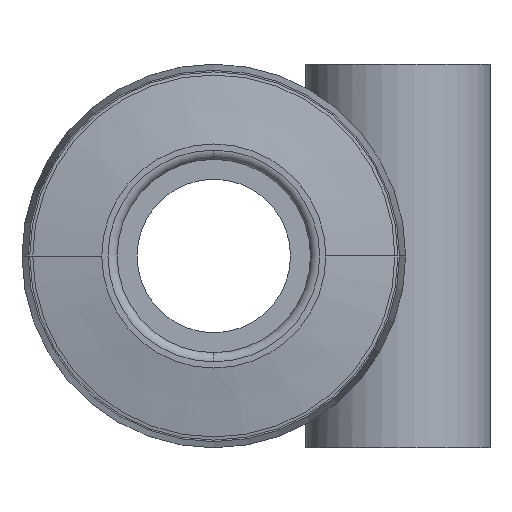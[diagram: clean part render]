
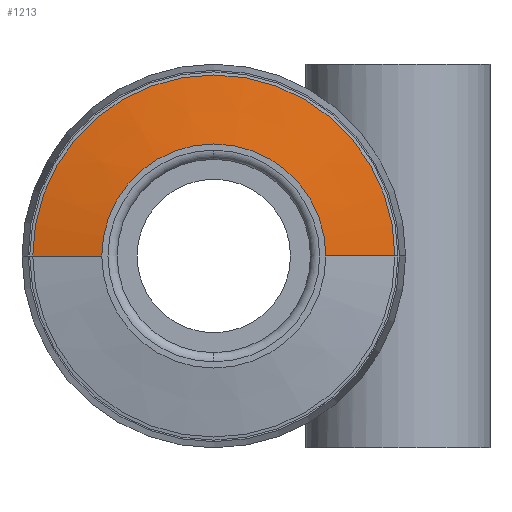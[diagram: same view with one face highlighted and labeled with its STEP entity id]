
A CAD part, front view. The second image highlights one B-rep face of the part: STEP entity #1213.
In plain terms, the highlighted conical face has half-angle 79.919 degrees and reference radius 4.775 mm.
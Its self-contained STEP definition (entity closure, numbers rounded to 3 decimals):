
#48 = ORIENTED_EDGE ( 'NONE', *, *, #321, .F. ) ;
#83 = ORIENTED_EDGE ( 'NONE', *, *, #1703, .F. ) ;
#92 = CARTESIAN_POINT ( 'NONE',  ( -5.9, -17.8, 0. ) ) ;
#95 = FACE_OUTER_BOUND ( 'NONE', #1023, .T. ) ;
#113 = CARTESIAN_POINT ( 'NONE',  ( -3.65, -18.2, 0. ) ) ;
#128 = DIRECTION ( 'NONE',  ( 0.985, 0.175, 0. ) ) ;
#147 = CARTESIAN_POINT ( 'NONE',  ( -4.775, -18., 0. ) ) ;
#197 = VERTEX_POINT ( 'NONE', #92 ) ;
#235 = VECTOR ( 'NONE', #728, 1000. ) ;
#321 = EDGE_CURVE ( 'NONE', #904, #197, #442, .T. ) ;
#410 = VERTEX_POINT ( 'NONE', #886 ) ;
#442 = LINE ( 'NONE', #147, #235 ) ;
#489 = CIRCLE ( 'NONE', #1143, 5.9 ) ;
#492 = VERTEX_POINT ( 'NONE', #617 ) ;
#509 = ORIENTED_EDGE ( 'NONE', *, *, #1884, .T. ) ;
#617 = CARTESIAN_POINT ( 'NONE',  ( 5.9, -17.8, 0. ) ) ;
#627 = EDGE_CURVE ( 'NONE', #410, #492, #1731, .T. ) ;
#648 = DIRECTION ( 'NONE',  ( -1., 0., 0. ) ) ;
#728 = DIRECTION ( 'NONE',  ( -0.985, 0.175, 0. ) ) ;
#733 = ORIENTED_EDGE ( 'NONE', *, *, #627, .T. ) ;
#834 = CARTESIAN_POINT ( 'NONE',  ( 0., -18., 0. ) ) ;
#886 = CARTESIAN_POINT ( 'NONE',  ( 3.65, -18.2, 0. ) ) ;
#904 = VERTEX_POINT ( 'NONE', #113 ) ;
#958 = CIRCLE ( 'NONE', #1637, 3.65 ) ;
#960 = DIRECTION ( 'NONE',  ( 0., 1., 0. ) ) ;
#999 = CARTESIAN_POINT ( 'NONE',  ( 0., -18.2, 0. ) ) ;
#1023 = EDGE_LOOP ( 'NONE', ( #509, #733, #83, #48 ) ) ;
#1041 = VECTOR ( 'NONE', #128, 1000. ) ;
#1143 = AXIS2_PLACEMENT_3D ( 'NONE', #1484, #1750, #1339 ) ;
#1213 = ADVANCED_FACE ( 'NONE', ( #95 ), #1838, .T. ) ;
#1329 = CARTESIAN_POINT ( 'NONE',  ( 4.775, -18., 0. ) ) ;
#1339 = DIRECTION ( 'NONE',  ( -1., 0., 0. ) ) ;
#1403 = DIRECTION ( 'NONE',  ( -1., 0., 0. ) ) ;
#1484 = CARTESIAN_POINT ( 'NONE',  ( 0., -17.8, 0. ) ) ;
#1524 = DIRECTION ( 'NONE',  ( 0., 1., 0. ) ) ;
#1637 = AXIS2_PLACEMENT_3D ( 'NONE', #999, #960, #1403 ) ;
#1703 = EDGE_CURVE ( 'NONE', #197, #492, #489, .T. ) ;
#1731 = LINE ( 'NONE', #1329, #1041 ) ;
#1750 = DIRECTION ( 'NONE',  ( 0., 1., 0. ) ) ;
#1838 = CONICAL_SURFACE ( 'NONE', #1903, 4.775, 1.395 ) ;
#1884 = EDGE_CURVE ( 'NONE', #904, #410, #958, .T. ) ;
#1903 = AXIS2_PLACEMENT_3D ( 'NONE', #834, #1524, #648 ) ;
